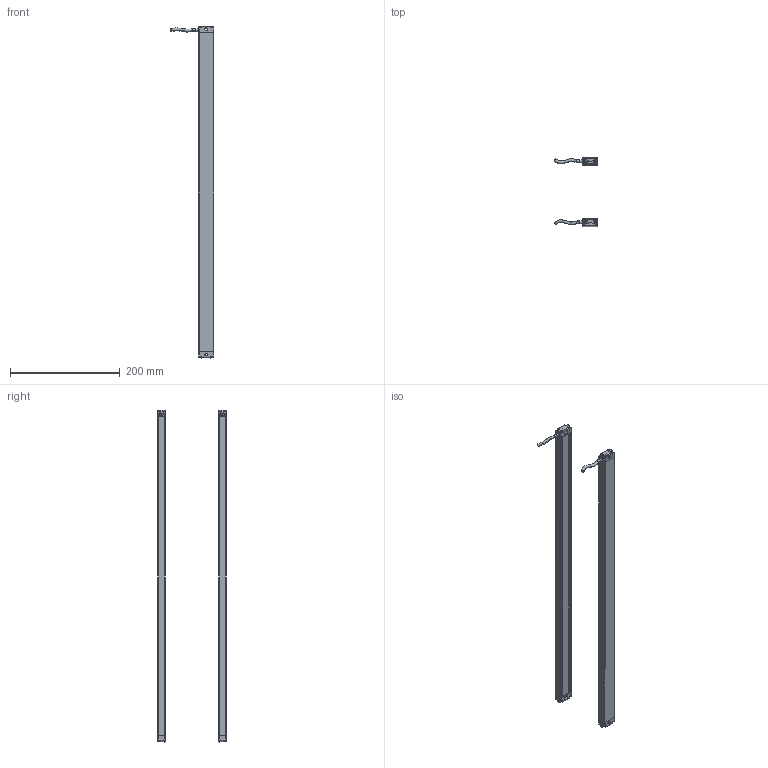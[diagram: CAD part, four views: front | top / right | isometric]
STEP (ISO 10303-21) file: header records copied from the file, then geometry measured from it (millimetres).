
FILE_DESCRIPTION(/* description */ (''),/* implementation_level */ '2;1');
FILE_NAME(/* name */ '5810(13X28W).stp',/* time_stamp */ '2023-08-24T10:17:11+08:00',/* author */ (''),/* organization */ (''),/* preprocessor_version */ 'ST-DEVELOPER v16.7',/* originating_system */ 'SIEMENS PLM Software NX 12.0',/* authorisation */ '');
FILE_SCHEMA (('AP203_CONFIGURATION_CONTROLLED_3D_DESIGN_OF_MECHANICAL_PARTS_AND_ASSEMBLIES_MIM_LF { 1 0 10303 403 2 1 2}'));
Length unit declared in the file: millimetre
Products named in the file (1): 5610_13X28W__stp
Bounding box: 79.6 x 125.02 x 606 mm (x, y, z)
Volume: 177589.8 mm3; surface area: 235665 mm2
Topology: 10 solids, 10 shells, 760 faces, 2158 edges, 1427 vertices
Faces by surface type: plane 356, cylinder 312, torus 52, bspline 40
Entity records: 28396 total; most frequent: CARTESIAN_POINT 8731, ORIENTED_EDGE 4316, DIRECTION 3801, EDGE_CURVE 2158, VERTEX_POINT 1427, AXIS2_PLACEMENT_3D 1293, LINE 1215, VECTOR 1215
